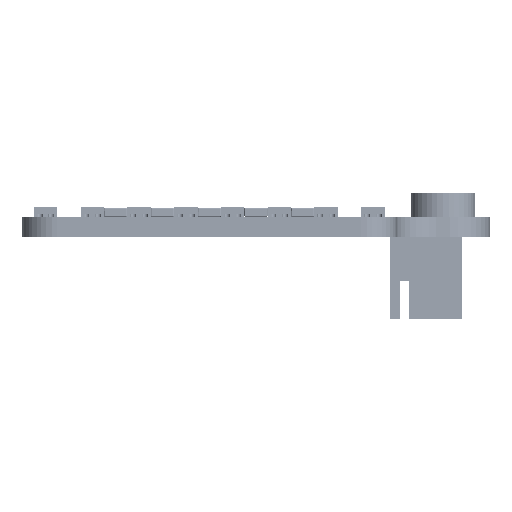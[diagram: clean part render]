
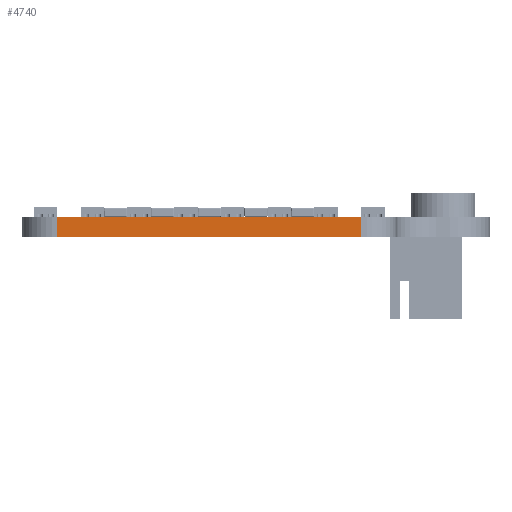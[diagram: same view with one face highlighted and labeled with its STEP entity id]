
A CAD part, left-side view. The second image highlights one B-rep face of the part: STEP entity #4740.
In plain terms, the highlighted planar face has unit normal (-1, 0, 0).
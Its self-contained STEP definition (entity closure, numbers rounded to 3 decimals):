
#647 = PLANE('',#648);
#648 = AXIS2_PLACEMENT_3D('',#649,#650,#651);
#649 = CARTESIAN_POINT('',(16.,-24.,1.691));
#650 = DIRECTION('',(0.,0.,-1.));
#651 = DIRECTION('',(-1.,0.,0.));
#701 = PLANE('',#702);
#702 = AXIS2_PLACEMENT_3D('',#703,#704,#705);
#703 = CARTESIAN_POINT('',(16.,-24.,0.));
#704 = DIRECTION('',(0.,0.,-1.));
#705 = DIRECTION('',(-1.,0.,0.));
#4632 = PLANE('',#4633);
#4633 = AXIS2_PLACEMENT_3D('',#4634,#4635,#4636);
#4634 = CARTESIAN_POINT('',(-36.972,13.471,0.));
#4635 = DIRECTION('',(0.997,-0.078,0.));
#4636 = DIRECTION('',(-0.078,-0.997,0.));
#4670 = VERTEX_POINT('',#4671);
#4671 = CARTESIAN_POINT('',(-37.009,13.,1.691));
#4692 = EDGE_CURVE('',#4693,#4670,#4695,.T.);
#4693 = VERTEX_POINT('',#4694);
#4694 = CARTESIAN_POINT('',(-37.009,13.,0.));
#4695 = SURFACE_CURVE('',#4696,(#4700,#4707),.PCURVE_S1.);
#4696 = LINE('',#4697,#4698);
#4697 = CARTESIAN_POINT('',(-37.009,13.,0.));
#4698 = VECTOR('',#4699,1.);
#4699 = DIRECTION('',(0.,0.,1.));
#4700 = PCURVE('',#4632,#4701);
#4701 = DEFINITIONAL_REPRESENTATION('',(#4702),#4706);
#4702 = LINE('',#4703,#4704);
#4703 = CARTESIAN_POINT('',(0.472,0.));
#4704 = VECTOR('',#4705,1.);
#4705 = DIRECTION('',(0.,-1.));
#4706 = ( GEOMETRIC_REPRESENTATION_CONTEXT(2) 
PARAMETRIC_REPRESENTATION_CONTEXT() REPRESENTATION_CONTEXT('2D SPACE',''
  ) );
#4707 = PCURVE('',#4708,#4713);
#4708 = PLANE('',#4709);
#4709 = AXIS2_PLACEMENT_3D('',#4710,#4711,#4712);
#4710 = CARTESIAN_POINT('',(-37.009,13.,0.));
#4711 = DIRECTION('',(1.,0.,0.));
#4712 = DIRECTION('',(0.,-1.,0.));
#4713 = DEFINITIONAL_REPRESENTATION('',(#4714),#4718);
#4714 = LINE('',#4715,#4716);
#4715 = CARTESIAN_POINT('',(0.,0.));
#4716 = VECTOR('',#4717,1.);
#4717 = DIRECTION('',(0.,-1.));
#4718 = ( GEOMETRIC_REPRESENTATION_CONTEXT(2) 
PARAMETRIC_REPRESENTATION_CONTEXT() REPRESENTATION_CONTEXT('2D SPACE',''
  ) );
#4740 = ADVANCED_FACE('',(#4741),#4708,.F.);
#4741 = FACE_BOUND('',#4742,.F.);
#4742 = EDGE_LOOP('',(#4743,#4744,#4767,#4795));
#4743 = ORIENTED_EDGE('',*,*,#4692,.T.);
#4744 = ORIENTED_EDGE('',*,*,#4745,.T.);
#4745 = EDGE_CURVE('',#4670,#4746,#4748,.T.);
#4746 = VERTEX_POINT('',#4747);
#4747 = CARTESIAN_POINT('',(-37.,-13.,1.691));
#4748 = SURFACE_CURVE('',#4749,(#4753,#4760),.PCURVE_S1.);
#4749 = LINE('',#4750,#4751);
#4750 = CARTESIAN_POINT('',(-37.009,13.,1.691));
#4751 = VECTOR('',#4752,1.);
#4752 = DIRECTION('',(0.,-1.,0.));
#4753 = PCURVE('',#4708,#4754);
#4754 = DEFINITIONAL_REPRESENTATION('',(#4755),#4759);
#4755 = LINE('',#4756,#4757);
#4756 = CARTESIAN_POINT('',(0.,-1.691));
#4757 = VECTOR('',#4758,1.);
#4758 = DIRECTION('',(1.,0.));
#4759 = ( GEOMETRIC_REPRESENTATION_CONTEXT(2) 
PARAMETRIC_REPRESENTATION_CONTEXT() REPRESENTATION_CONTEXT('2D SPACE',''
  ) );
#4760 = PCURVE('',#647,#4761);
#4761 = DEFINITIONAL_REPRESENTATION('',(#4762),#4766);
#4762 = LINE('',#4763,#4764);
#4763 = CARTESIAN_POINT('',(53.009,37.));
#4764 = VECTOR('',#4765,1.);
#4765 = DIRECTION('',(0.,-1.));
#4766 = ( GEOMETRIC_REPRESENTATION_CONTEXT(2) 
PARAMETRIC_REPRESENTATION_CONTEXT() REPRESENTATION_CONTEXT('2D SPACE',''
  ) );
#4767 = ORIENTED_EDGE('',*,*,#4768,.F.);
#4768 = EDGE_CURVE('',#4769,#4746,#4771,.T.);
#4769 = VERTEX_POINT('',#4770);
#4770 = CARTESIAN_POINT('',(-37.,-13.,0.));
#4771 = SURFACE_CURVE('',#4772,(#4776,#4783),.PCURVE_S1.);
#4772 = LINE('',#4773,#4774);
#4773 = CARTESIAN_POINT('',(-37.,-13.,0.));
#4774 = VECTOR('',#4775,1.);
#4775 = DIRECTION('',(0.,0.,1.));
#4776 = PCURVE('',#4708,#4777);
#4777 = DEFINITIONAL_REPRESENTATION('',(#4778),#4782);
#4778 = LINE('',#4779,#4780);
#4779 = CARTESIAN_POINT('',(26.,0.));
#4780 = VECTOR('',#4781,1.);
#4781 = DIRECTION('',(0.,-1.));
#4782 = ( GEOMETRIC_REPRESENTATION_CONTEXT(2) 
PARAMETRIC_REPRESENTATION_CONTEXT() REPRESENTATION_CONTEXT('2D SPACE',''
  ) );
#4783 = PCURVE('',#4784,#4789);
#4784 = PLANE('',#4785);
#4785 = AXIS2_PLACEMENT_3D('',#4786,#4787,#4788);
#4786 = CARTESIAN_POINT('',(-37.,-13.,0.));
#4787 = DIRECTION('',(0.998,0.059,0.));
#4788 = DIRECTION('',(0.059,-0.998,0.));
#4789 = DEFINITIONAL_REPRESENTATION('',(#4790),#4794);
#4790 = LINE('',#4791,#4792);
#4791 = CARTESIAN_POINT('',(0.,0.));
#4792 = VECTOR('',#4793,1.);
#4793 = DIRECTION('',(0.,-1.));
#4794 = ( GEOMETRIC_REPRESENTATION_CONTEXT(2) 
PARAMETRIC_REPRESENTATION_CONTEXT() REPRESENTATION_CONTEXT('2D SPACE',''
  ) );
#4795 = ORIENTED_EDGE('',*,*,#4796,.F.);
#4796 = EDGE_CURVE('',#4693,#4769,#4797,.T.);
#4797 = SURFACE_CURVE('',#4798,(#4802,#4809),.PCURVE_S1.);
#4798 = LINE('',#4799,#4800);
#4799 = CARTESIAN_POINT('',(-37.009,13.,0.));
#4800 = VECTOR('',#4801,1.);
#4801 = DIRECTION('',(0.,-1.,0.));
#4802 = PCURVE('',#4708,#4803);
#4803 = DEFINITIONAL_REPRESENTATION('',(#4804),#4808);
#4804 = LINE('',#4805,#4806);
#4805 = CARTESIAN_POINT('',(0.,0.));
#4806 = VECTOR('',#4807,1.);
#4807 = DIRECTION('',(1.,0.));
#4808 = ( GEOMETRIC_REPRESENTATION_CONTEXT(2) 
PARAMETRIC_REPRESENTATION_CONTEXT() REPRESENTATION_CONTEXT('2D SPACE',''
  ) );
#4809 = PCURVE('',#701,#4810);
#4810 = DEFINITIONAL_REPRESENTATION('',(#4811),#4815);
#4811 = LINE('',#4812,#4813);
#4812 = CARTESIAN_POINT('',(53.009,37.));
#4813 = VECTOR('',#4814,1.);
#4814 = DIRECTION('',(0.,-1.));
#4815 = ( GEOMETRIC_REPRESENTATION_CONTEXT(2) 
PARAMETRIC_REPRESENTATION_CONTEXT() REPRESENTATION_CONTEXT('2D SPACE',''
  ) );
